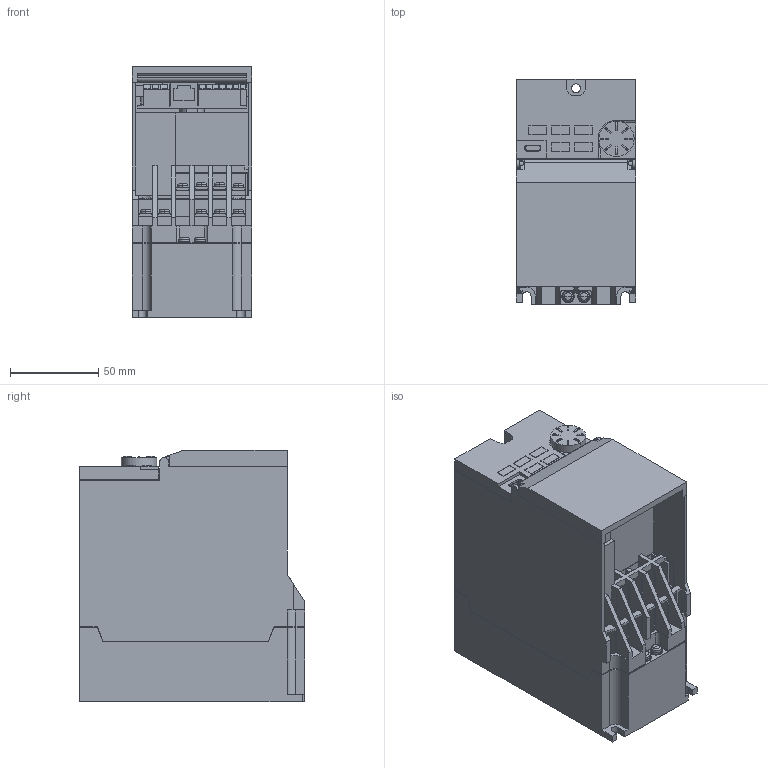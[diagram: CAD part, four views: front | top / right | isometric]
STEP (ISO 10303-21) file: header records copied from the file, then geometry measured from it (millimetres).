
FILE_DESCRIPTION((''),'2;1');
FILE_NAME('3D-INV-53_03_ASM','2024-11-27T16:31:34',('CT89920'),(''),'CREO PARAMETRIC BY PTC INC, 2022281','CREO PARAMETRIC BY PTC INC, 2022281','');
FILE_SCHEMA(('CONFIG_CONTROL_DESIGN','SHAPE_APPEARANCE_LAYERS_GROUPS'));
Length unit declared in the file: millimetre
Products named in the file (7): 3D-BASE-53_03; 3D-TE_SHORT-51_01; 3D-TE_NEJI-M3_5X8-ZA7; 3D-TE-NEJI-53_01_ASM; 3D-SW-PW-P-M3_5X10; 3D-S_COV-D80-0_75; 3D-INV-53_03_ASM
Assembly tree (15 placements, depth 3):
  3D-INV-53_03_ASM
    3D-BASE-53_03
    3D-TE-NEJI-53_01_ASM
      3D-TE_SHORT-51_01
      3D-TE_NEJI-M3_5X8-ZA7  x9
    3D-SW-PW-P-M3_5X10  x2
    3D-S_COV-D80-0_75
Bounding box: 68 x 128 x 142.5 mm (x, y, z)
Volume: 508291 mm3; surface area: 170651.8 mm2
Topology: 14 solids, 14 shells, 902 faces, 2422 edges, 1575 vertices
Faces by surface type: plane 720, cylinder 136, torus 22, extrusion 16, cone 4, sphere 4
Entity records: 30526 total; most frequent: CARTESIAN_POINT 5085, ORIENTED_EDGE 4328, DIRECTION 3948, EDGE_CURVE 2164, VECTOR 1924, LINE 1908, VERTEX_POINT 1412, AXIS2_PLACEMENT_3D 1012
